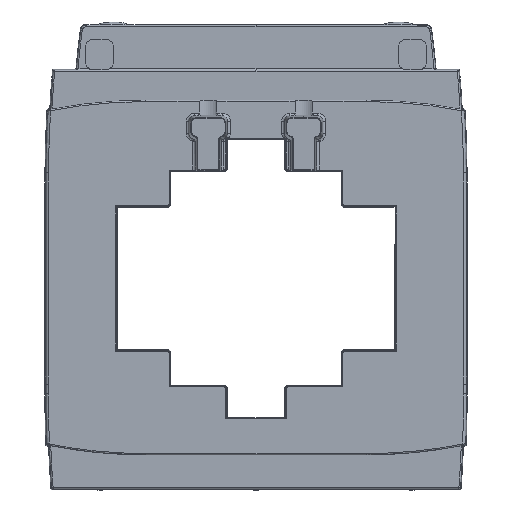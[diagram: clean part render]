
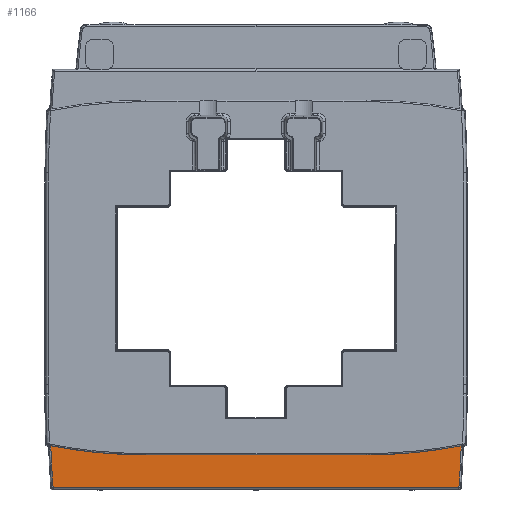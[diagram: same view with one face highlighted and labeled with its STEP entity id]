
A CAD part, front view. The second image highlights one B-rep face of the part: STEP entity #1166.
In plain terms, the highlighted planar face has unit normal (0, -1, 0).
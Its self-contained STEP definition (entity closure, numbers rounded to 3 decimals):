
#551=ELLIPSE('',#9596,181.08,181.053);
#552=ELLIPSE('',#9597,181.079,181.052);
#764=CIRCLE('',#9595,375.154);
#765=CIRCLE('',#9598,375.154);
#1166=ADVANCED_FACE('',(#1880),#1582,.T.);
#1582=PLANE('',#9599);
#1880=FACE_OUTER_BOUND('',#2433,.T.);
#2433=EDGE_LOOP('',(#4943,#4944,#4945,#4946,#4947,#4948));
#3047=LINE('',#14759,#3626);
#3054=LINE('',#14833,#3633);
#3626=VECTOR('',#11162,1.);
#3633=VECTOR('',#11187,1.);
#4943=ORIENTED_EDGE('',*,*,#8102,.T.);
#4944=ORIENTED_EDGE('',*,*,#8125,.F.);
#4945=ORIENTED_EDGE('',*,*,#8126,.F.);
#4946=ORIENTED_EDGE('',*,*,#8120,.F.);
#4947=ORIENTED_EDGE('',*,*,#8127,.F.);
#4948=ORIENTED_EDGE('',*,*,#8128,.T.);
#7017=VERTEX_POINT('',#14420);
#7077=VERTEX_POINT('',#14758);
#7090=VERTEX_POINT('',#14834);
#7091=VERTEX_POINT('',#14835);
#7094=VERTEX_POINT('',#14856);
#7095=VERTEX_POINT('',#14859);
#8102=EDGE_CURVE('',#7017,#7077,#3047,.T.);
#8120=EDGE_CURVE('',#7090,#7091,#3054,.T.);
#8125=EDGE_CURVE('',#7094,#7077,#764,.T.);
#8126=EDGE_CURVE('',#7091,#7094,#551,.T.);
#8127=EDGE_CURVE('',#7095,#7090,#552,.T.);
#8128=EDGE_CURVE('',#7095,#7017,#765,.T.);
#9595=AXIS2_PLACEMENT_3D('',#14855,#11190,#11191);
#9596=AXIS2_PLACEMENT_3D('',#14857,#11192,#11193);
#9597=AXIS2_PLACEMENT_3D('',#14858,#11194,#11195);
#9598=AXIS2_PLACEMENT_3D('',#14860,#11196,#11197);
#9599=AXIS2_PLACEMENT_3D('',#14861,#11198,#11199);
#11162=DIRECTION('',(1.,0.,0.));
#11187=DIRECTION('',(1.,0.,0.));
#11190=DIRECTION('',(0.,1.,0.));
#11191=DIRECTION('',(0.,0.,1.));
#11192=DIRECTION('',(0.,-1.,0.));
#11193=DIRECTION('',(0.134,0.,-0.991));
#11194=DIRECTION('',(0.,-1.,0.));
#11195=DIRECTION('',(-0.067,0.,-0.998));
#11196=DIRECTION('',(0.,-1.,0.));
#11197=DIRECTION('',(0.,0.,1.));
#11198=DIRECTION('',(0.,-1.,0.));
#11199=DIRECTION('',(0.,0.,1.));
#14420=CARTESIAN_POINT('',(-74.012,-18.5,-76.309));
#14758=CARTESIAN_POINT('',(74.012,-18.5,-76.309));
#14759=CARTESIAN_POINT('',(73.974,-18.5,-76.309));
#14833=CARTESIAN_POINT('',(35.136,-18.5,-64.355));
#14834=CARTESIAN_POINT('',(-40.3,-18.5,-64.356));
#14835=CARTESIAN_POINT('',(40.3,-18.5,-64.356));
#14855=CARTESIAN_POINT('',(-300.077,-18.5,-48.063));
#14856=CARTESIAN_POINT('',(74.853,-18.5,-61.02));
#14857=CARTESIAN_POINT('',(40.225,-18.5,116.719));
#14858=CARTESIAN_POINT('',(-40.233,-18.5,116.719));
#14859=CARTESIAN_POINT('',(-74.853,-18.5,-61.02));
#14860=CARTESIAN_POINT('',(300.077,-18.5,-48.063));
#14861=CARTESIAN_POINT('',(-3.964,-18.5,-34.442));
